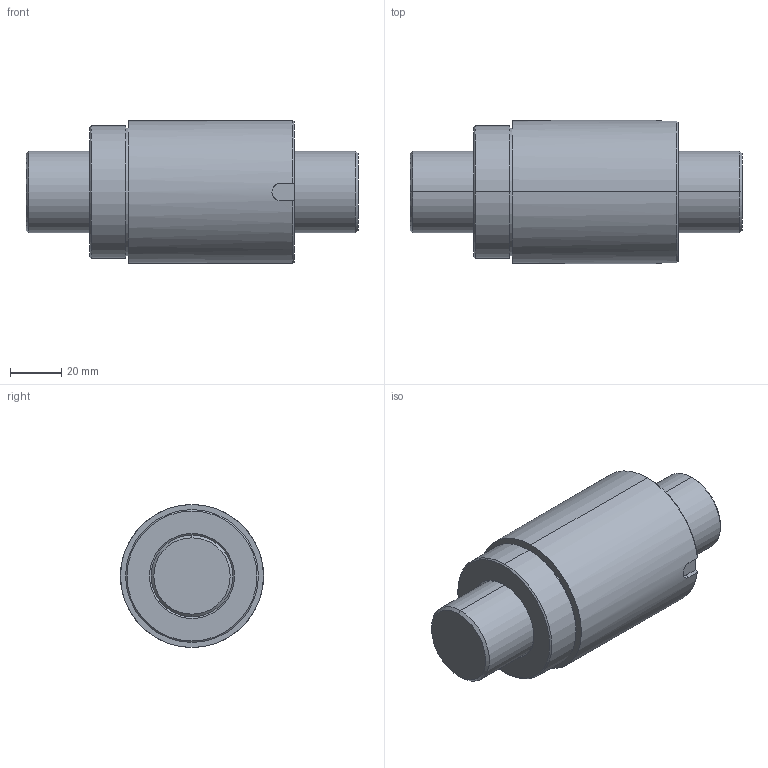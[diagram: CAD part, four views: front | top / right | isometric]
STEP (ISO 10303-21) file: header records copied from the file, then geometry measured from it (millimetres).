
FILE_DESCRIPTION(('no description'),'unknown implementation level');
FILE_NAME('R32_20T2_SE_130_130_0_023_7.stp',' ',('HIWIN GmbH'),('CADClick - KiM GmbH - www.kimweb.de'),'unknown preprocess','ACIS','unknown authorization');
FILE_SCHEMA(('automotive_design'));
Length unit declared in the file: millimetre
Products named in the file (2): R32-20T2-SE 130 130 0.023; R32-20T2-SE 130 130 0.023_1
Bounding box: 130 x 56 x 56 mm (x, y, z)
Volume: 231589.2 mm3; surface area: 39979.9 mm2
Topology: 2 solids, 2 shells, 40 faces, 90 edges, 56 vertices
Faces by surface type: cone 14, cylinder 14, plane 12
Entity records: 2275 total; most frequent: CARTESIAN_POINT 264, DIRECTION 206, STYLED_ITEM 188, PRESENTATION_STYLE_ASSIGNMENT 188, COLOUR_RGB 188, ORIENTED_EDGE 180, EDGE_CURVE 90, CURVE_STYLE 90
